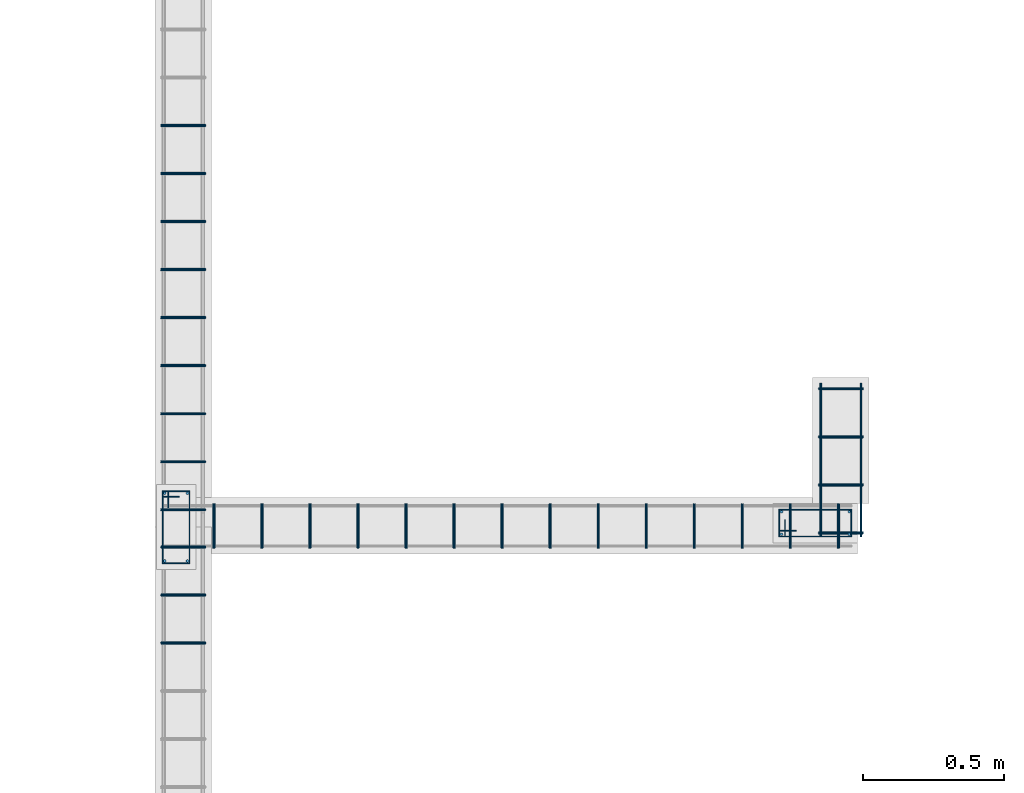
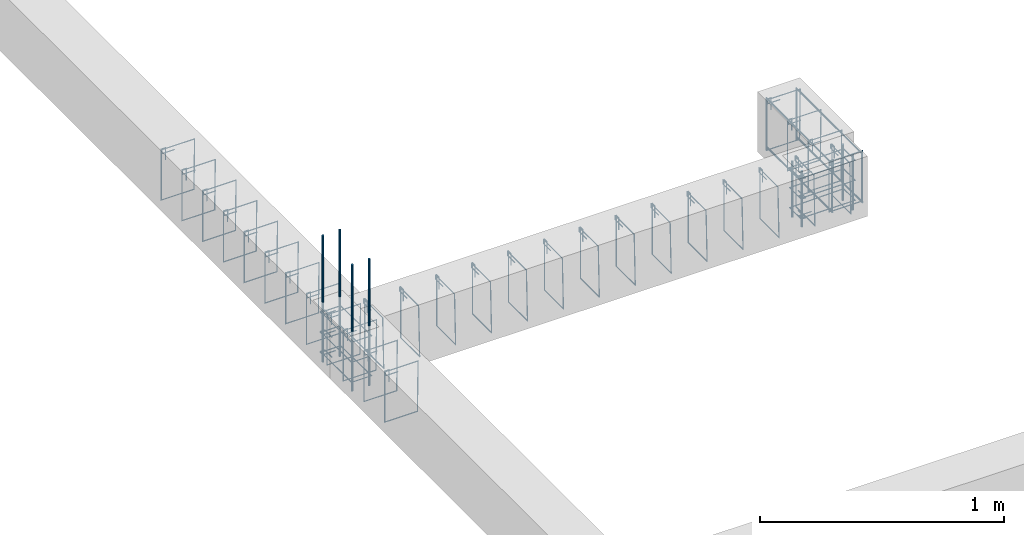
# One storey, part 52 of 150: 48 reinforcing bars.
"""IFC4 building model written with IfcOpenShell, lengths in centimetres."""

from ifc_helpers import new_model, entity, si_unit, derived_unit, frame, origin_with_axes, place, context, project, spatial, source, transform, mapped, element, save


model = new_model("IFC4")

# Units and contexts
model_context = context("Model", 3, precision=1e-05, world=origin_with_axes(), identifier="Body")
ifc_project = project(units=[si_unit("LENGTHUNIT", "METRE", prefix="CENTI"), si_unit("VOLUMEUNIT", "CUBIC_METRE"), si_unit("AREAUNIT", "SQUARE_METRE"), si_unit("POWERUNIT", "WATT"), si_unit("LUMINOUSFLUXUNIT", "LUMEN"), si_unit("ELECTRICCURRENTUNIT", "AMPERE"), si_unit("PRESSUREUNIT", "PASCAL", prefix="KILO"), si_unit("MASSUNIT", "GRAM", prefix="KILO"), si_unit("PLANEANGLEUNIT", "RADIAN"), derived_unit("VOLUMETRICFLOWRATEUNIT", [(si_unit("LENGTHUNIT", "METRE"), 3), (si_unit("TIMEUNIT", "SECOND"), -1)])], contexts=[model_context])

# Site, building, storey
site_placement = place(None, frame((-4000.0, 0.0, 0.0), z_axis=(0.0, 0.0, 1.0), x_axis=(1.0, 0.0, 0.0)))
site = spatial("IfcSite", under=ifc_project, at=site_placement, Name="PADRÃO")
building_placement = place(site_placement, frame((0.0, 0.0, -14.0)))
building = spatial("IfcBuilding", under=site, at=building_placement, Name="CRECHE PRÉ-ESCOLA TIPO 2")
placement = place(building_placement, origin_with_axes())
storey_placement = place(placement, frame((0.0, 0.0, 30.0), z_axis=(0.0, 0.0, 1.0), x_axis=(1.0, 0.0, 0.0)))
storey = spatial("IfcBuildingStorey", under=building, at=storey_placement, Name="VIGA BALDRAME", CompositionType="ELEMENT", Elevation=16.0)

# Reinforcing bars
shared_shape_1 = source(origin_with_axes(), model_context, "Body", "AdvancedSweptSolid", [
    entity("IfcSweptDiskSolid", entity("IfcCompositeCurve", [entity("IfcCompositeCurveSegment", "CONTINUOUS", True, entity("IfcPolyline", [entity("IfcCartesianPoint", [4.25, 21.75, 0.0]), entity("IfcCartesianPoint", [4.25, 27.75, 0.0])])), entity("IfcCompositeCurveSegment", "CONTINUOUS", True, entity("IfcPolyline", [entity("IfcCartesianPoint", [4.25, 27.75, 0.0]), entity("IfcCartesianPoint", [2.25, 27.75, 0.0])])), entity("IfcCompositeCurveSegment", "CONTINUOUS", True, entity("IfcPolyline", [entity("IfcCartesianPoint", [2.25, 27.75, 0.0]), entity("IfcCartesianPoint", [2.25, 2.25, 0.0])])), entity("IfcCompositeCurveSegment", "CONTINUOUS", True, entity("IfcPolyline", [entity("IfcCartesianPoint", [2.25, 2.25, 0.0]), entity("IfcCartesianPoint", [11.75, 2.25, 0.0])])), entity("IfcCompositeCurveSegment", "CONTINUOUS", True, entity("IfcPolyline", [entity("IfcCartesianPoint", [11.75, 2.25, 0.0]), entity("IfcCartesianPoint", [11.75, 27.75, -0.5])])), entity("IfcCompositeCurveSegment", "CONTINUOUS", True, entity("IfcPolyline", [entity("IfcCartesianPoint", [11.75, 27.75, -0.5]), entity("IfcCartesianPoint", [2.25, 27.75, -0.5])])), entity("IfcCompositeCurveSegment", "CONTINUOUS", True, entity("IfcPolyline", [entity("IfcCartesianPoint", [2.25, 27.75, -0.5]), entity("IfcCartesianPoint", [2.25, 25.75, -0.5])])), entity("IfcCompositeCurveSegment", "CONTINUOUS", True, entity("IfcPolyline", [entity("IfcCartesianPoint", [2.25, 25.75, -0.5]), entity("IfcCartesianPoint", [8.25, 25.75, -0.5])]))], False), 0.25),
])
for number, where, z_axis, x_axis, name in (
    (1, (2764.74, 1246.51, -15.0), (0.0, 0.0, 1.0), (0.0, 1.0, 0.0), "P111 - Estribo"),
    (2, (2764.74, 1246.51, -25.0), (0.0, 0.0, 1.0), (0.0, 1.0, 0.0), "P111 - Estribo"),
    (3, (2764.74, 1246.51, -5.0), (0.0, 0.0, 1.0), (0.0, 1.0, 0.0), "P111 - Estribo"),
):
    element("IfcReinforcingBar", number, at=place(storey_placement, frame(where, z_axis=z_axis, x_axis=x_axis)), inside=storey, Name=name, BarLength=0.0, CrossSectionArea=1.9634954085e-05, NominalDiameter=0.5, PredefinedType="MAIN", context=model_context, shape_type="MappedRepresentation", body=[
        mapped(shared_shape_1, transform((0.0, 0.0, 0.0), scale=1.0)),
    ])
shared_shape_2 = source(origin_with_axes(), model_context, "Body", "AdvancedSweptSolid", [
    entity("IfcSweptDiskSolid", entity("IfcCompositeCurve", [entity("IfcCompositeCurveSegment", "CONTINUOUS", True, entity("IfcPolyline", [entity("IfcCartesianPoint", [4.25, 21.75, 0.0]), entity("IfcCartesianPoint", [4.25, 27.75, 0.0])])), entity("IfcCompositeCurveSegment", "CONTINUOUS", True, entity("IfcPolyline", [entity("IfcCartesianPoint", [4.25, 27.75, 0.0]), entity("IfcCartesianPoint", [2.25, 27.75, 0.0])])), entity("IfcCompositeCurveSegment", "CONTINUOUS", True, entity("IfcPolyline", [entity("IfcCartesianPoint", [2.25, 27.75, 0.0]), entity("IfcCartesianPoint", [2.25, 2.25, 0.0])])), entity("IfcCompositeCurveSegment", "CONTINUOUS", True, entity("IfcPolyline", [entity("IfcCartesianPoint", [2.25, 2.25, 0.0]), entity("IfcCartesianPoint", [11.75, 2.25, 0.0])])), entity("IfcCompositeCurveSegment", "CONTINUOUS", True, entity("IfcPolyline", [entity("IfcCartesianPoint", [11.75, 2.25, 0.0]), entity("IfcCartesianPoint", [11.75, 27.75, -0.5])])), entity("IfcCompositeCurveSegment", "CONTINUOUS", True, entity("IfcPolyline", [entity("IfcCartesianPoint", [11.75, 27.75, -0.5]), entity("IfcCartesianPoint", [2.25, 27.75, -0.5])])), entity("IfcCompositeCurveSegment", "CONTINUOUS", True, entity("IfcPolyline", [entity("IfcCartesianPoint", [2.25, 27.75, -0.5]), entity("IfcCartesianPoint", [2.25, 25.75, -0.5])])), entity("IfcCompositeCurveSegment", "CONTINUOUS", True, entity("IfcPolyline", [entity("IfcCartesianPoint", [2.25, 25.75, -0.5]), entity("IfcCartesianPoint", [8.25, 25.75, -0.5])]))], False), 0.25),
])
for number, where, z_axis, x_axis, name in (
    (4, (2516.5, 1237.08, -25.0), (0.0, 0.0, 1.0), (1.0, 0.0, 0.0), "P110 - Estribo"),
    (5, (2516.5, 1237.08, -15.0), (0.0, 0.0, 1.0), (1.0, 0.0, 0.0), "P110 - Estribo"),
    (6, (2516.5, 1237.08, -5.0), (0.0, 0.0, 1.0), (1.0, 0.0, 0.0), "P110 - Estribo"),
):
    element("IfcReinforcingBar", number, at=place(storey_placement, frame(where, z_axis=z_axis, x_axis=x_axis)), inside=storey, Name=name, BarLength=0.0, CrossSectionArea=1.9634954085e-05, NominalDiameter=0.5, PredefinedType="MAIN", context=model_context, shape_type="MappedRepresentation", body=[
        mapped(shared_shape_2, transform((0.0, 0.0, 0.0), scale=1.0)),
    ])
shared_shape_3 = source(origin_with_axes(), model_context, "Body", "AdvancedSweptSolid", [
    entity("IfcSweptDiskSolid", entity("IfcCompositeCurve", [entity("IfcCompositeCurveSegment", "CONTINUOUS", True, entity("IfcPolyline", [entity("IfcCartesianPoint", [2.0, -6.0, 0.0]), entity("IfcCartesianPoint", [2.0, 0.0, 0.0])])), entity("IfcCompositeCurveSegment", "CONTINUOUS", True, entity("IfcPolyline", [entity("IfcCartesianPoint", [2.0, 0.0, 0.0]), entity("IfcCartesianPoint", [0.0, 0.0, 0.0])])), entity("IfcCompositeCurveSegment", "CONTINUOUS", True, entity("IfcPolyline", [entity("IfcCartesianPoint", [0.0, 0.0, 0.0]), entity("IfcCartesianPoint", [0.0, -25.5, 0.0])])), entity("IfcCompositeCurveSegment", "CONTINUOUS", True, entity("IfcPolyline", [entity("IfcCartesianPoint", [0.0, -25.5, 0.0]), entity("IfcCartesianPoint", [15.5, -25.5, 0.0])])), entity("IfcCompositeCurveSegment", "CONTINUOUS", True, entity("IfcPolyline", [entity("IfcCartesianPoint", [15.5, -25.5, 0.0]), entity("IfcCartesianPoint", [15.5, 0.0, 0.5])])), entity("IfcCompositeCurveSegment", "CONTINUOUS", True, entity("IfcPolyline", [entity("IfcCartesianPoint", [15.5, 0.0, 0.5]), entity("IfcCartesianPoint", [0.0, 0.0, 0.5])])), entity("IfcCompositeCurveSegment", "CONTINUOUS", True, entity("IfcPolyline", [entity("IfcCartesianPoint", [0.0, 0.0, 0.5]), entity("IfcCartesianPoint", [0.0, -2.0, 0.5])])), entity("IfcCompositeCurveSegment", "CONTINUOUS", True, entity("IfcPolyline", [entity("IfcCartesianPoint", [0.0, -2.0, 0.5]), entity("IfcCartesianPoint", [6.0, -2.0, 0.5])]))], False), 0.25),
])
for number, where, z_axis, x_axis, name in (
    (7, (2518.25, 1228.3, -2.25), (0.0, -1.0, 0.0), (1.0, 0.0, 0.0), "V196 - Estribo"),
    (8, (2518.25, 1245.3, -2.25), (0.0, -1.0, 0.0), (1.0, 0.0, 0.0), "V196 - Estribo"),
    (9, (2518.25, 1211.3, -2.25), (0.0, -1.0, 0.0), (1.0, 0.0, 0.0), "V196 - Estribo"),
):
    element("IfcReinforcingBar", number, at=place(storey_placement, frame(where, z_axis=z_axis, x_axis=x_axis)), inside=storey, Name=name, BarLength=0.0, CrossSectionArea=1.9634954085e-05, NominalDiameter=0.5, PredefinedType="MAIN", context=model_context, shape_type="MappedRepresentation", body=[
        mapped(shared_shape_3, transform((0.0, 0.0, 0.0), scale=1.0)),
    ])
shared_shape_4 = source(origin_with_axes(), model_context, "Body", "AdvancedSweptSolid", [
    entity("IfcSweptDiskSolid", entity("IfcCompositeCurve", [entity("IfcCompositeCurveSegment", "CONTINUOUS", True, entity("IfcPolyline", [entity("IfcCartesianPoint", [2.0, -6.0, 0.0]), entity("IfcCartesianPoint", [2.0, 0.0, 0.0])])), entity("IfcCompositeCurveSegment", "CONTINUOUS", True, entity("IfcPolyline", [entity("IfcCartesianPoint", [2.0, 0.0, 0.0]), entity("IfcCartesianPoint", [0.0, 0.0, 0.0])])), entity("IfcCompositeCurveSegment", "CONTINUOUS", True, entity("IfcPolyline", [entity("IfcCartesianPoint", [0.0, 0.0, 0.0]), entity("IfcCartesianPoint", [0.0, -25.5, 0.0])])), entity("IfcCompositeCurveSegment", "CONTINUOUS", True, entity("IfcPolyline", [entity("IfcCartesianPoint", [0.0, -25.5, 0.0]), entity("IfcCartesianPoint", [15.5, -25.5, 0.0])])), entity("IfcCompositeCurveSegment", "CONTINUOUS", True, entity("IfcPolyline", [entity("IfcCartesianPoint", [15.5, -25.5, 0.0]), entity("IfcCartesianPoint", [15.5, 0.0, 0.5])])), entity("IfcCompositeCurveSegment", "CONTINUOUS", True, entity("IfcPolyline", [entity("IfcCartesianPoint", [15.5, 0.0, 0.5]), entity("IfcCartesianPoint", [0.0, 0.0, 0.5])])), entity("IfcCompositeCurveSegment", "CONTINUOUS", True, entity("IfcPolyline", [entity("IfcCartesianPoint", [0.0, 0.0, 0.5]), entity("IfcCartesianPoint", [0.0, -2.0, 0.5])])), entity("IfcCompositeCurveSegment", "CONTINUOUS", True, entity("IfcPolyline", [entity("IfcCartesianPoint", [0.0, -2.0, 0.5]), entity("IfcCartesianPoint", [6.0, -2.0, 0.5])]))], False), 0.25),
])
for number, where, z_axis, x_axis, name in (
    (10, (2518.25, 1258.46, -2.25), (0.0, -1.0, 0.0), (1.0, 0.0, 0.0), "V196 - Estribo"),
    (11, (2518.25, 1275.46, -2.25), (0.0, -1.0, 0.0), (1.0, 0.0, 0.0), "V196 - Estribo"),
    (12, (2518.25, 1292.46, -2.25), (0.0, -1.0, 0.0), (1.0, 0.0, 0.0), "V196 - Estribo"),
    (13, (2518.25, 1309.46, -2.25), (0.0, -1.0, 0.0), (1.0, 0.0, 0.0), "V196 - Estribo"),
    (14, (2518.25, 1326.46, -2.25), (0.0, -1.0, 0.0), (1.0, 0.0, 0.0), "V196 - Estribo"),
    (15, (2518.25, 1343.46, -2.25), (0.0, -1.0, 0.0), (1.0, 0.0, 0.0), "V196 - Estribo"),
    (16, (2518.25, 1360.46, -2.25), (0.0, -1.0, 0.0), (1.0, 0.0, 0.0), "V196 - Estribo"),
    (17, (2518.25, 1377.46, -2.25), (0.0, -1.0, 0.0), (1.0, 0.0, 0.0), "V196 - Estribo"),
    (18, (2518.25, 1394.46, -2.25), (0.0, -1.0, 0.0), (1.0, 0.0, 0.0), "V196 - Estribo"),
):
    element("IfcReinforcingBar", number, at=place(storey_placement, frame(where, z_axis=z_axis, x_axis=x_axis)), inside=storey, Name=name, BarLength=0.0, CrossSectionArea=1.9634954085e-05, NominalDiameter=0.5, PredefinedType="MAIN", context=model_context, shape_type="MappedRepresentation", body=[
        mapped(shared_shape_4, transform((0.0, 0.0, 0.0), scale=1.0)),
    ])
shared_shape_5 = source(origin_with_axes(), model_context, "Body", "AdvancedSweptSolid", [
    entity("IfcSweptDiskSolid", entity("IfcCompositeCurve", [entity("IfcCompositeCurveSegment", "CONTINUOUS", True, entity("IfcPolyline", [entity("IfcCartesianPoint", [2.0, -6.0, 0.0]), entity("IfcCartesianPoint", [2.0, 0.0, 0.0])])), entity("IfcCompositeCurveSegment", "CONTINUOUS", True, entity("IfcPolyline", [entity("IfcCartesianPoint", [2.0, 0.0, 0.0]), entity("IfcCartesianPoint", [0.0, 0.0, 0.0])])), entity("IfcCompositeCurveSegment", "CONTINUOUS", True, entity("IfcPolyline", [entity("IfcCartesianPoint", [0.0, 0.0, 0.0]), entity("IfcCartesianPoint", [0.0, -25.5, 0.0])])), entity("IfcCompositeCurveSegment", "CONTINUOUS", True, entity("IfcPolyline", [entity("IfcCartesianPoint", [0.0, -25.5, 0.0]), entity("IfcCartesianPoint", [15.5, -25.5, 0.0])])), entity("IfcCompositeCurveSegment", "CONTINUOUS", True, entity("IfcPolyline", [entity("IfcCartesianPoint", [15.5, -25.5, 0.0]), entity("IfcCartesianPoint", [15.5, 0.0, 0.5])])), entity("IfcCompositeCurveSegment", "CONTINUOUS", True, entity("IfcPolyline", [entity("IfcCartesianPoint", [15.5, 0.0, 0.5]), entity("IfcCartesianPoint", [0.0, 0.0, 0.5])])), entity("IfcCompositeCurveSegment", "CONTINUOUS", True, entity("IfcPolyline", [entity("IfcCartesianPoint", [0.0, 0.0, 0.5]), entity("IfcCartesianPoint", [0.0, -2.0, 0.5])])), entity("IfcCompositeCurveSegment", "CONTINUOUS", True, entity("IfcPolyline", [entity("IfcCartesianPoint", [0.0, -2.0, 0.5]), entity("IfcCartesianPoint", [6.0, -2.0, 0.5])]))], False), 0.25),
])
for number, where, z_axis, x_axis, name in (
    (19, (2751.0, 1301.26, -2.25), (0.0, -1.0, 0.0), (1.0, 0.0, 0.0), "V204 - Estribo"),
    (20, (2751.0, 1250.26, -2.25), (0.0, -1.0, 0.0), (1.0, 0.0, 0.0), "V204 - Estribo"),
    (21, (2751.0, 1284.26, -2.25), (0.0, -1.0, 0.0), (1.0, 0.0, 0.0), "V204 - Estribo"),
    (22, (2751.0, 1267.26, -2.25), (0.0, -1.0, 0.0), (1.0, 0.0, 0.0), "V204 - Estribo"),
):
    element("IfcReinforcingBar", number, at=place(storey_placement, frame(where, z_axis=z_axis, x_axis=x_axis)), inside=storey, Name=name, BarLength=0.0, CrossSectionArea=1.9634954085e-05, NominalDiameter=0.5, PredefinedType="MAIN", context=model_context, shape_type="MappedRepresentation", body=[
        mapped(shared_shape_5, transform((0.0, 0.0, 0.0), scale=1.0)),
    ])
shared_shape_6 = source(origin_with_axes(), model_context, "Body", "AdvancedSweptSolid", [
    entity("IfcSweptDiskSolid", entity("IfcCompositeCurve", [entity("IfcCompositeCurveSegment", "CONTINUOUS", True, entity("IfcPolyline", [entity("IfcCartesianPoint", [2.0, -6.0, 0.0]), entity("IfcCartesianPoint", [2.0, 0.0, 0.0])])), entity("IfcCompositeCurveSegment", "CONTINUOUS", True, entity("IfcPolyline", [entity("IfcCartesianPoint", [2.0, 0.0, 0.0]), entity("IfcCartesianPoint", [0.0, 0.0, 0.0])])), entity("IfcCompositeCurveSegment", "CONTINUOUS", True, entity("IfcPolyline", [entity("IfcCartesianPoint", [0.0, 0.0, 0.0]), entity("IfcCartesianPoint", [0.0, -25.5, 0.0])])), entity("IfcCompositeCurveSegment", "CONTINUOUS", True, entity("IfcPolyline", [entity("IfcCartesianPoint", [0.0, -25.5, 0.0]), entity("IfcCartesianPoint", [15.5, -25.5, 0.0])])), entity("IfcCompositeCurveSegment", "CONTINUOUS", True, entity("IfcPolyline", [entity("IfcCartesianPoint", [15.5, -25.5, 0.0]), entity("IfcCartesianPoint", [15.5, 0.0, 0.5])])), entity("IfcCompositeCurveSegment", "CONTINUOUS", True, entity("IfcPolyline", [entity("IfcCartesianPoint", [15.5, 0.0, 0.5]), entity("IfcCartesianPoint", [0.0, 0.0, 0.5])])), entity("IfcCompositeCurveSegment", "CONTINUOUS", True, entity("IfcPolyline", [entity("IfcCartesianPoint", [0.0, 0.0, 0.5]), entity("IfcCartesianPoint", [0.0, -2.0, 0.5])])), entity("IfcCompositeCurveSegment", "CONTINUOUS", True, entity("IfcPolyline", [entity("IfcCartesianPoint", [0.0, -2.0, 0.5]), entity("IfcCartesianPoint", [6.0, -2.0, 0.5])]))], False), 0.25),
])
for number, where, z_axis, x_axis, name in (
    (23, (2537.12, 1260.26, -2.25), (-1.0, 0.0, 0.0), (0.0, -1.0, 0.0), "V137 - Estribo"),
    (24, (2724.12, 1260.26, -2.25), (-1.0, 0.0, 0.0), (0.0, -1.0, 0.0), "V137 - Estribo"),
    (25, (2707.12, 1260.26, -2.25), (-1.0, 0.0, 0.0), (0.0, -1.0, 0.0), "V137 - Estribo"),
    (26, (2639.12, 1260.26, -2.25), (-1.0, 0.0, 0.0), (0.0, -1.0, 0.0), "V137 - Estribo"),
    (27, (2690.12, 1260.26, -2.25), (-1.0, 0.0, 0.0), (0.0, -1.0, 0.0), "V137 - Estribo"),
    (28, (2673.12, 1260.26, -2.25), (-1.0, 0.0, 0.0), (0.0, -1.0, 0.0), "V137 - Estribo"),
    (29, (2656.12, 1260.26, -2.25), (-1.0, 0.0, 0.0), (0.0, -1.0, 0.0), "V137 - Estribo"),
    (30, (2554.12, 1260.26, -2.25), (-1.0, 0.0, 0.0), (0.0, -1.0, 0.0), "V137 - Estribo"),
    (31, (2622.12, 1260.26, -2.25), (-1.0, 0.0, 0.0), (0.0, -1.0, 0.0), "V137 - Estribo"),
    (32, (2758.12, 1260.26, -2.25), (-1.0, 0.0, 0.0), (0.0, -1.0, 0.0), "V137 - Estribo"),
    (33, (2571.12, 1260.26, -2.25), (-1.0, 0.0, 0.0), (0.0, -1.0, 0.0), "V137 - Estribo"),
    (34, (2588.12, 1260.26, -2.25), (-1.0, 0.0, 0.0), (0.0, -1.0, 0.0), "V137 - Estribo"),
    (35, (2605.12, 1260.26, -2.25), (-1.0, 0.0, 0.0), (0.0, -1.0, 0.0), "V137 - Estribo"),
    (36, (2741.12, 1260.26, -2.25), (-1.0, 0.0, 0.0), (0.0, -1.0, 0.0), "V137 - Estribo"),
):
    element("IfcReinforcingBar", number, at=place(storey_placement, frame(where, z_axis=z_axis, x_axis=x_axis)), inside=storey, Name=name, BarLength=0.0, CrossSectionArea=1.9634954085e-05, NominalDiameter=0.5, PredefinedType="MAIN", context=model_context, shape_type="MappedRepresentation", body=[
        mapped(shared_shape_6, transform((0.0, 0.0, 0.0), scale=1.0)),
    ])
for number, where, z_axis, x_axis, name in (
    (37, (2519.5, 1264.08, 33.3573001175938), (0.0, 0.0, 1.0), (1.0, 0.0, 0.0), "P110 - Longitudinal"),
    (38, (2519.5, 1240.08, 33.3573001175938), (0.0, 0.0, 1.0), (1.0, 0.0, 0.0), "P110 - Longitudinal"),
    (39, (2527.5, 1264.08, 33.3573001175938), (0.0, 0.0, 1.0), (1.0, 0.0, 0.0), "P110 - Longitudinal"),
    (40, (2527.5, 1240.08, 33.3573001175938), (0.0, 0.0, 1.0), (1.0, 0.0, 0.0), "P110 - Longitudinal"),
):
    element("IfcReinforcingBar", number, at=place(storey_placement, frame(where, z_axis=z_axis, x_axis=x_axis)), inside=storey, Name=name, BarLength=0.0, CrossSectionArea=7.853981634e-05, NominalDiameter=1.0, PredefinedType="MAIN", context=model_context, shape_type="AdvancedSweptSolid", body=[
        entity("IfcSweptDiskSolid", entity("IfcCompositeCurve", [entity("IfcCompositeCurveSegment", "CONTINUOUS", True, entity("IfcPolyline", [entity("IfcCartesianPoint", [0.0, 0.0, -63.3573001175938]), entity("IfcCartesianPoint", [0.0, 0.0, 0.0])]))], False), 0.5),
    ])
for number, where, z_axis, x_axis, name in (
    (41, (2761.74, 1257.51, -2.0), (0.0, 0.0, 1.0), (1.0, 0.0, 0.0), "P111 - Longitudinal"),
    (42, (2737.74, 1249.51, -2.0), (0.0, 0.0, 1.0), (1.0, 0.0, 0.0), "P111 - Longitudinal"),
    (43, (2737.74, 1257.51, -2.0), (0.0, 0.0, 1.0), (1.0, 0.0, 0.0), "P111 - Longitudinal"),
    (44, (2761.74, 1249.51, -2.0), (0.0, 0.0, 1.0), (1.0, 0.0, 0.0), "P111 - Longitudinal"),
):
    element("IfcReinforcingBar", number, at=place(storey_placement, frame(where, z_axis=z_axis, x_axis=x_axis)), inside=storey, Name=name, BarLength=0.0, CrossSectionArea=7.853981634e-05, NominalDiameter=1.0, PredefinedType="MAIN", context=model_context, shape_type="AdvancedSweptSolid", body=[
        entity("IfcSweptDiskSolid", entity("IfcCompositeCurve", [entity("IfcCompositeCurveSegment", "CONTINUOUS", True, entity("IfcPolyline", [entity("IfcCartesianPoint", [0.0, 0.0, -28.0]), entity("IfcCartesianPoint", [0.0, 0.0, 0.0])]))], False), 0.5),
    ])
for number, where, z_axis, x_axis, name in (
    (45, (2751.65, 1275.76, -26.7), (0.0, 0.0, 1.0), (1.0, 0.0, 0.0), "V204 - Longitudinal inferior"),
    (46, (2765.85, 1275.76, -26.7), (0.0, 0.0, 1.0), (1.0, 0.0, 0.0), "V204 - Longitudinal inferior"),
):
    element("IfcReinforcingBar", number, at=place(storey_placement, frame(where, z_axis=z_axis, x_axis=x_axis)), inside=storey, Name=name, BarLength=0.0, CrossSectionArea=5.0265482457e-05, NominalDiameter=0.8, PredefinedType="MAIN", context=model_context, shape_type="AdvancedSweptSolid", body=[
        entity("IfcSweptDiskSolid", entity("IfcCompositeCurve", [entity("IfcCompositeCurveSegment", "CONTINUOUS", True, entity("IfcPolyline", [entity("IfcCartesianPoint", [0.0, -27.25, -0.4]), entity("IfcCartesianPoint", [0.0, 27.25, -0.4])]))], False), 0.4),
    ])
for number, where, z_axis, x_axis, name in (
    (47, (2751.65, 1275.76, -2.49624973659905), (0.0, 0.0, 1.0), (1.0, 0.0, 0.0), "V204 - Longitudinal superior"),
    (48, (2765.85, 1275.76, -2.49624973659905), (0.0, 0.0, 1.0), (1.0, 0.0, 0.0), "V204 - Longitudinal superior"),
):
    element("IfcReinforcingBar", number, at=place(storey_placement, frame(where, z_axis=z_axis, x_axis=x_axis)), inside=storey, Name=name, BarLength=0.0, CrossSectionArea=5.0265482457e-05, NominalDiameter=0.8, PredefinedType="MAIN", context=model_context, shape_type="AdvancedSweptSolid", body=[
        entity("IfcSweptDiskSolid", entity("IfcCompositeCurve", [entity("IfcCompositeCurveSegment", "CONTINUOUS", True, entity("IfcPolyline", [entity("IfcCartesianPoint", [0.0, -26.85, -24.2941566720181]), entity("IfcCartesianPoint", [0.0, -26.85, -0.403750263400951])])), entity("IfcCompositeCurveSegment", "CONTINUOUS", True, entity("IfcPolyline", [entity("IfcCartesianPoint", [0.0, -26.85, -0.403750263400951]), entity("IfcCartesianPoint", [0.0, 26.85, -0.403750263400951])])), entity("IfcCompositeCurveSegment", "CONTINUOUS", True, entity("IfcPolyline", [entity("IfcCartesianPoint", [0.0, 26.85, -0.403750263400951]), entity("IfcCartesianPoint", [0.0, 26.85, -26.403750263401])]))], False), 0.4),
    ])

save(model, "model.ifc")
